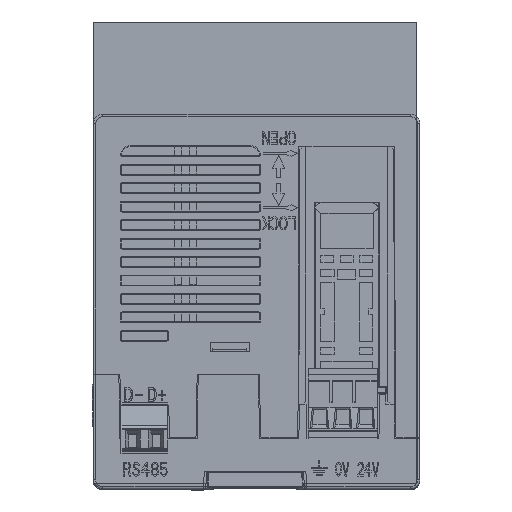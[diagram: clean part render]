
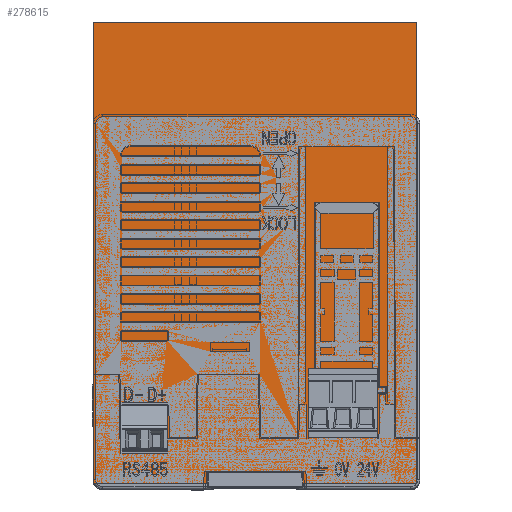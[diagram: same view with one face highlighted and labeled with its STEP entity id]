
A CAD part, top view. The second image highlights one B-rep face of the part: STEP entity #278615.
In plain terms, the highlighted planar face has unit normal (0, 0, 1).
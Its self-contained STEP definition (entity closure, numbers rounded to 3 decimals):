
#278449=DIRECTION('',(0.,-1.,0.));
#278450=VECTOR('',#278449,100.);
#278451=CARTESIAN_POINT('',(-35.,100.,56.9));
#278452=LINE('',#278451,#278450);
#278498=DIRECTION('',(-1.,0.,0.));
#278499=VECTOR('',#278498,70.);
#278500=CARTESIAN_POINT('',(35.,0.,56.9));
#278501=LINE('',#278500,#278499);
#278505=DIRECTION('',(1.,0.,0.));
#278506=VECTOR('',#278505,70.);
#278507=CARTESIAN_POINT('',(-35.,100.,56.9));
#278508=LINE('',#278507,#278506);
#278512=DIRECTION('',(0.,-1.,0.));
#278513=VECTOR('',#278512,100.);
#278514=CARTESIAN_POINT('',(35.,100.,56.9));
#278515=LINE('',#278514,#278513);
#278519=CARTESIAN_POINT('',(-35.,0.,56.9));
#278521=VERTEX_POINT('',#278519);
#278524=CARTESIAN_POINT('',(-35.,100.,56.9));
#278526=VERTEX_POINT('',#278524);
#278531=CARTESIAN_POINT('',(35.,0.,56.9));
#278532=VERTEX_POINT('',#278531);
#278533=CARTESIAN_POINT('',(35.,100.,56.9));
#278534=VERTEX_POINT('',#278533);
#278602=CARTESIAN_POINT('',(-35.,0.,56.9));
#278603=DIRECTION('',(0.,0.,1.));
#278604=DIRECTION('',(1.,0.,0.));
#278605=AXIS2_PLACEMENT_3D('',#278602,#278603,#278604);
#278606=PLANE('',#278605);
#278608=ORIENTED_EDGE('',*,*,#278607,.T.);
#278609=ORIENTED_EDGE('',*,*,#278546,.F.);
#278611=ORIENTED_EDGE('',*,*,#278610,.T.);
#278612=ORIENTED_EDGE('',*,*,#278587,.T.);
#278613=EDGE_LOOP('',(#278608,#278609,#278611,#278612));
#278614=FACE_OUTER_BOUND('',#278613,.F.);
#278615=ADVANCED_FACE('',(#278614),#278606,.T.);
#278546=EDGE_CURVE('',#278526,#278521,#278452,.T.);
#278587=EDGE_CURVE('',#278534,#278532,#278515,.T.);
#278607=EDGE_CURVE('',#278532,#278521,#278501,.T.);
#278610=EDGE_CURVE('',#278526,#278534,#278508,.T.);
